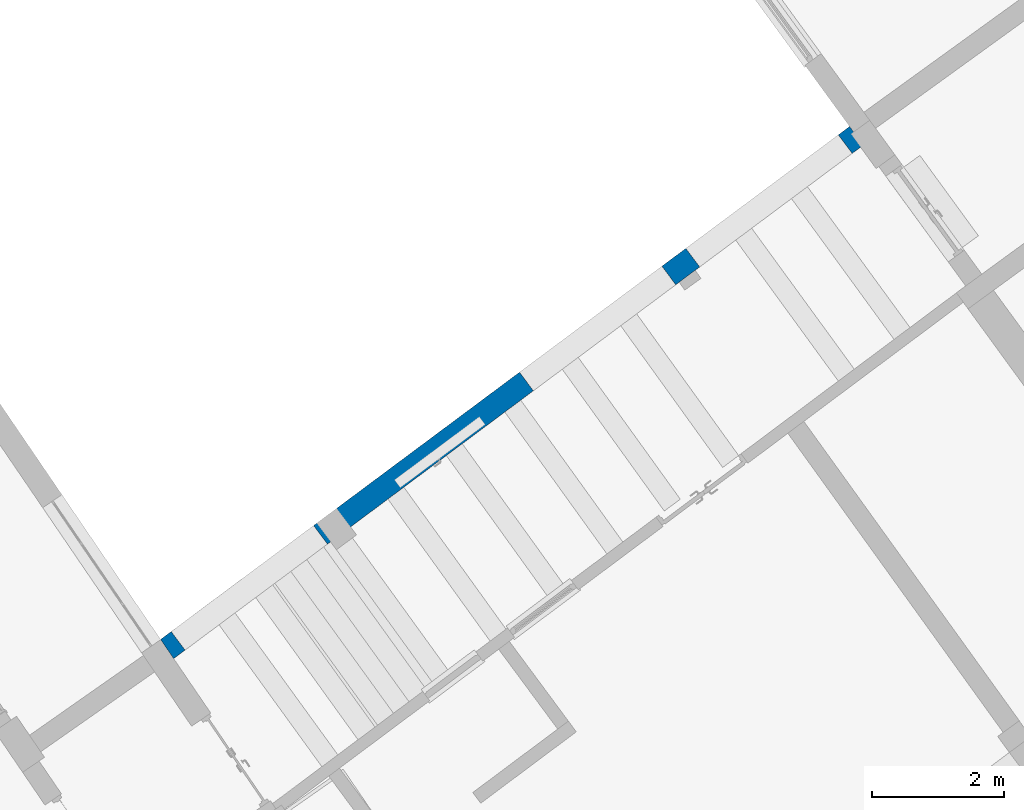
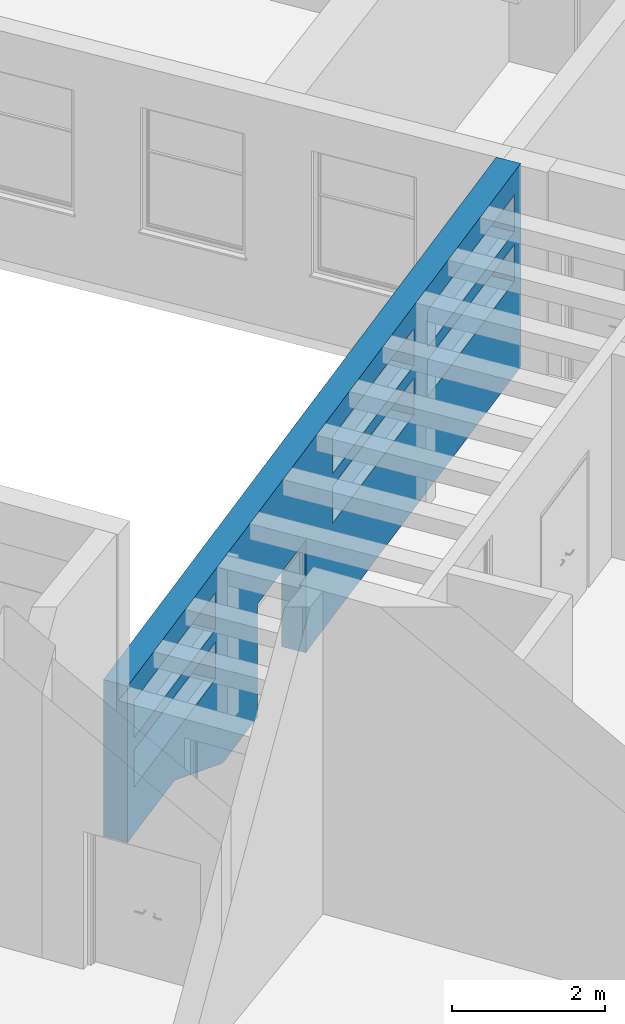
# One storey, part 139 of 157: 1 wall, 7 openings.
"""IFC2X3 building model written with IfcOpenShell, lengths in millimetres."""

import ifcopenshell
import ifcopenshell.guid

model = None  # the IFC model being written
_history = None  # IfcOwnerHistory: only IFC2X3 demands one
_inside = {}  # id of a spatial element -> (the spatial element, [elements in it])
_under = {}  # id of a project, library or spatial element -> (it, [spatial elements below it])
_declared = {}  # id of a project -> (the project, [libraries it declares])
_typed = {}  # id of a type object -> (the type object, [elements of that type])
_made_of = {}  # id of a material, layer set ... -> (it, [elements and type objects made of it])


def new_model(schema):
    """Start an empty IFC model of exactly this schema.

    Asked for "IFC4X3", IfcOpenShell would pick the latest addendum, in which some entities
    have other attributes; the version numbers below select the first issue.
    IFC2X3 requires an IfcOwnerHistory on every rooted entity: one is made here for all.
    """
    global model, _history
    if schema == "IFC4X3":
        model = ifcopenshell.file(schema_version=(4, 3, 0, 0))
    else:
        model = ifcopenshell.file(schema=schema)
    _inside.clear()
    _under.clear()
    _declared.clear()
    _typed.clear()
    _made_of.clear()
    _history = None
    if model.schema == "IFC2X3":
        org = make("IfcOrganization", Name="unknown")
        user = make(
            "IfcPersonAndOrganization",
            ThePerson=make("IfcPerson", FamilyName="unknown"),
            TheOrganization=org,
        )
        app = make(
            "IfcApplication",
            ApplicationDeveloper=org,
            Version="unknown",
            ApplicationFullName="unknown",
            ApplicationIdentifier="unknown",
        )
        _history = make(
            "IfcOwnerHistory",
            OwningUser=user,
            OwningApplication=app,
            ChangeAction="ADDED",
            CreationDate=0,
        )
    return model


def make(cls, **values):
    """One entity of the class cls with the attributes given. An attribute that is None is left unset."""
    return model.create_entity(
        cls, **{name: value for name, value in values.items() if value is not None}
    )


def entity(cls, *values):
    """Any entity or typed value of the class cls, its attributes in the order of the schema. None: left unset."""
    e = model.create_entity(cls)
    for i, value in enumerate(values):
        if value is not None:
            e[i] = value
    return e


def rooted(cls, **values):
    """An entity with a GlobalId (a new one), such as an element, a storey or a relation."""
    return make(cls, GlobalId=ifcopenshell.guid.new(), OwnerHistory=_history, **values)


def si_unit(unit_type, name, prefix=None):
    """IfcSIUnit, for example si_unit("LENGTHUNIT", "METRE", prefix="MILLI")."""
    return make("IfcSIUnit", UnitType=unit_type, Prefix=prefix, Name=name)


def converted_unit(unit_type, name, factor, base, dimensions=None, offset=None):
    """IfcConversionBasedUnit, such as the inch: factor (a typed value) times the base unit."""
    return make(
        "IfcConversionBasedUnit"
        if offset is None
        else "IfcConversionBasedUnitWithOffset",
        ConversionOffset=offset,
        Dimensions=None
        if dimensions is None
        else entity("IfcDimensionalExponents", *dimensions),
        UnitType=unit_type,
        Name=name,
        ConversionFactor=make(
            "IfcMeasureWithUnit", ValueComponent=factor, UnitComponent=base
        ),
    )


def derived_unit(unit_type, elements):
    """IfcDerivedUnit: a product of units, each with its exponent."""
    return make(
        "IfcDerivedUnit",
        Elements=[
            make("IfcDerivedUnitElement", Unit=unit, Exponent=power)
            for unit, power in elements
        ],
        UnitType=unit_type,
    )


def assignment(units):
    """IfcUnitAssignment: the units of a project."""
    return None if units is None else make("IfcUnitAssignment", Units=units)


def point(xyz):
    """IfcCartesianPoint."""
    return None if xyz is None else make("IfcCartesianPoint", Coordinates=xyz)


def direction(xyz):
    """IfcDirection."""
    return None if xyz is None else make("IfcDirection", DirectionRatios=xyz)


def frame(location, z_axis=None, x_axis=None):
    """IfcAxis2Placement3D, a coordinate frame: its origin and axes. An axis left out is left unset."""
    return make(
        "IfcAxis2Placement3D",
        Location=point(location),
        Axis=direction(z_axis),
        RefDirection=direction(x_axis),
    )


def frame_2d(location, x_axis=None):
    """IfcAxis2Placement2D, a coordinate frame in the plane: its origin and x axis."""
    return make(
        "IfcAxis2Placement2D", Location=point(location), RefDirection=direction(x_axis)
    )


def origin():
    """The frame at (0, 0, 0) with its axes left unset."""
    return frame((0.0, 0.0, 0.0))


def place(relative_to, where):
    """IfcLocalPlacement: puts the frame where relative to a parent placement (None: the world)."""
    return make(
        "IfcLocalPlacement", PlacementRelTo=relative_to, RelativePlacement=where
    )


def context(
    kind, dimensions, precision=None, world=None, true_north=None, identifier=None
):
    """IfcGeometricRepresentationContext, for example the 3D "Model" context."""
    return make(
        "IfcGeometricRepresentationContext",
        ContextIdentifier=identifier,
        ContextType=kind,
        CoordinateSpaceDimension=dimensions,
        Precision=precision,
        WorldCoordinateSystem=world,
        TrueNorth=true_north,
    )


def subcontext(parent, identifier, kind, view, scale=None):
    """IfcGeometricRepresentationSubContext, for example "Body" below "Model"."""
    return make(
        "IfcGeometricRepresentationSubContext",
        ContextIdentifier=identifier,
        ContextType=kind,
        ParentContext=parent,
        TargetScale=scale,
        TargetView=view,
    )


def project(units=None, contexts=None):
    """IfcProject with its units and contexts."""
    return rooted(
        "IfcProject",
        Name="project",
        RepresentationContexts=contexts,
        UnitsInContext=assignment(units),
    )


def spatial(cls, under=None, at=None, **own):
    """A site, building, storey or space (cls), placed at a placement, below another one or the project."""
    s = rooted(cls, ObjectPlacement=at, **own)
    if under is not None:
        _under.setdefault(under.id(), (under, []))[1].append(s)
    return s


def profile(cls, at=None, kind="AREA", **sizes):
    """A parametric profile (cls). Its sizes go by their IFC names, for example OverallWidth=200.0."""
    return make(cls, ProfileType=kind, Position=at, **sizes)


def rectangle(**sizes):
    """IfcRectangleProfileDef."""
    return profile("IfcRectangleProfileDef", **sizes)


def extrude(swept, where, along, depth):
    """IfcExtrudedAreaSolid: the profile swept, set in the frame where, extruded along a direction by depth."""
    return make(
        "IfcExtrudedAreaSolid",
        SweptArea=swept,
        Position=where,
        ExtrudedDirection=direction(along),
        Depth=depth,
    )


def faces_of(points, faces, orient=None, outer=None):
    """IfcFace entities. A face is a list of loops; a loop is a list of indices into points, from 0.

    orient and outer hold one flag for each loop. By default every Orientation is true, the
    first loop of a face is its IfcFaceOuterBound and the others are IfcFaceBound.
    """
    made = []
    for i, loops in enumerate(faces):
        bounds = []
        for j, loop in enumerate(loops):
            is_outer = j == 0 if outer is None else outer[i][j]
            bounds.append(
                make(
                    "IfcFaceOuterBound" if is_outer else "IfcFaceBound",
                    Bound=make("IfcPolyLoop", Polygon=[points[k] for k in loop]),
                    Orientation=True if orient is None else orient[i][j],
                )
            )
        made.append(make("IfcFace", Bounds=bounds))
    return made


def faceted_brep(points, faces, orient=None, outer=None, voids=None):
    """IfcFacetedBrep: a solid bounded by flat faces; with voids (closed shells), ...WithVoids."""
    shared = [point(p) for p in points]
    hull = make("IfcClosedShell", CfsFaces=faces_of(shared, faces, orient, outer))
    if voids is None:
        return make("IfcFacetedBrep", Outer=hull)
    return make(
        "IfcFacetedBrepWithVoids",
        Outer=hull,
        Voids=[
            make(cls, CfsFaces=faces_of(shared, fs, o, b)) for cls, fs, o, b in voids
        ],
    )


def shape(context_of_items, identifier, shape_type, items):
    """IfcShapeRepresentation: the items that make up one representation, for example the "Body"."""
    return make(
        "IfcShapeRepresentation",
        ContextOfItems=context_of_items,
        RepresentationIdentifier=identifier,
        RepresentationType=shape_type,
        Items=items,
    )


def material(Name=None, Category=None):
    """IfcMaterial."""
    return make("IfcMaterial", Name=Name, Category=Category)


def layer(
    of_material, thickness, ventilated=None, Name=None, Category=None, Priority=None
):
    """IfcMaterialLayer: one layer of a wall or slab, of a material (None: an air gap)."""
    return make(
        "IfcMaterialLayer",
        Material=of_material,
        LayerThickness=thickness,
        IsVentilated=ventilated,
        Name=Name,
        Category=Category,
        Priority=Priority,
    )


def layer_set(layers, Name=None):
    """IfcMaterialLayerSet."""
    return make("IfcMaterialLayerSet", MaterialLayers=layers, LayerSetName=Name)


def made_of(thing, what):
    """Note that an element or type object is made of a material, layer set ...; save() writes the relation."""
    if what is not None:
        _made_of.setdefault(what.id(), (what, []))[1].append(thing)
    return thing


def type_object(cls, material=None, **own):
    """A type object (cls), such as IfcWallType, which elements share."""
    return made_of(rooted(cls, **own), material)


def element(
    cls,
    number,
    at=None,
    inside=None,
    cuts=None,
    type_object=None,
    material=None,
    context=None,
    identifier="Body",
    shape_type=None,
    held_by="IfcProductDefinitionShape",
    body=None,
    shapes=None,
    **own,
):
    """One element of the class cls, such as IfcWall. Its Tag is "e" and its number.

    at: its placement. inside: the storey or other place that contains it. cuts: it is an
    opening in that element (IfcRelVoidsElement). A single representation is given by context,
    identifier, shape_type and body (its items); several are given by shapes. held_by: the class
    of the entity that holds the representations. save() writes the other relations.
    """
    e = rooted(cls, Tag="e%d" % number, ObjectPlacement=at, **own)
    if body is not None:
        shapes = [shape(context, identifier, shape_type, body)]
    if shapes is not None:
        e.Representation = make(held_by, Representations=shapes)
    if inside is not None:
        _inside.setdefault(inside.id(), (inside, []))[1].append(e)
    if cuts is not None:
        rooted(
            "IfcRelVoidsElement", RelatingBuildingElement=cuts, RelatedOpeningElement=e
        )
    if type_object is not None:
        _typed.setdefault(type_object.id(), (type_object, []))[1].append(e)
    return made_of(e, material)


def aggregate(whole, parts):
    """IfcRelAggregates: a whole, such as a stair, and the parts it consists of."""
    return rooted("IfcRelAggregates", RelatingObject=whole, RelatedObjects=parts)


def save(model, path):
    """Write the relations noted so far, then the file.

    IfcRelAggregates (storeys below a building ...), IfcRelContainedInSpatialStructure (elements
    in a storey), IfcRelDefinesByType, IfcRelAssociatesMaterial and IfcRelDeclares: one each for
    every whole, place, type object, material and project.
    """
    for whole, parts in _under.values():
        aggregate(whole, parts)
    for where, things in _inside.values():
        rooted(
            "IfcRelContainedInSpatialStructure",
            RelatedElements=things,
            RelatingStructure=where,
        )
    for kind, things in _typed.values():
        rooted("IfcRelDefinesByType", RelatedObjects=things, RelatingType=kind)
    for what, things in _made_of.values():
        rooted("IfcRelAssociatesMaterial", RelatedObjects=things, RelatingMaterial=what)
    for by, libraries in _declared.values():
        rooted("IfcRelDeclares", RelatingContext=by, RelatedDefinitions=libraries)
    model.write(path)


model = new_model("IFC2X3")

# Units and contexts
model_context = context("Model", 3, precision=0.01, world=origin(), true_north=direction((6.123031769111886e-17, 1.0)))
body_context = subcontext(model_context, "Body", "Model", "MODEL_VIEW")
ifc_project = project(units=[si_unit("LENGTHUNIT", "METRE", prefix="MILLI"), si_unit("AREAUNIT", "SQUARE_METRE"), si_unit("VOLUMEUNIT", "CUBIC_METRE"), converted_unit("PLANEANGLEUNIT", "DEGREE", entity("IfcRatioMeasure", 0.017453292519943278), si_unit("PLANEANGLEUNIT", "RADIAN"), dimensions=[0, 0, 0, 0, 0, 0, 0]), si_unit("MASSUNIT", "GRAM", prefix="KILO"), derived_unit("MASSDENSITYUNIT", [(si_unit("MASSUNIT", "GRAM", prefix="KILO"), 1), (si_unit("LENGTHUNIT", "METRE"), -3)]), derived_unit("MOMENTOFINERTIAUNIT", [(si_unit("LENGTHUNIT", "METRE"), 4)]), si_unit("TIMEUNIT", "SECOND"), si_unit("FREQUENCYUNIT", "HERTZ"), si_unit("THERMODYNAMICTEMPERATUREUNIT", "DEGREE_CELSIUS"), derived_unit("THERMALTRANSMITTANCEUNIT", [(si_unit("MASSUNIT", "GRAM", prefix="KILO"), 1), (si_unit("THERMODYNAMICTEMPERATUREUNIT", "KELVIN"), -1), (si_unit("TIMEUNIT", "SECOND"), -3)]), derived_unit("THERMALCONDUCTANCEUNIT", [(si_unit("MASSUNIT", "GRAM", prefix="KILO"), 1), (si_unit("LENGTHUNIT", "METRE"), 1), (si_unit("THERMODYNAMICTEMPERATUREUNIT", "KELVIN"), -1), (si_unit("TIMEUNIT", "SECOND"), -3)]), derived_unit("VOLUMETRICFLOWRATEUNIT", [(si_unit("LENGTHUNIT", "METRE"), 3), (si_unit("TIMEUNIT", "SECOND"), -1)]), derived_unit("MASSFLOWRATEUNIT", [(si_unit("MASSUNIT", "GRAM", prefix="KILO"), 1), (si_unit("TIMEUNIT", "SECOND"), -1)]), derived_unit("ROTATIONALFREQUENCYUNIT", [(si_unit("TIMEUNIT", "SECOND"), -1)]), si_unit("ELECTRICCURRENTUNIT", "AMPERE"), si_unit("ELECTRICVOLTAGEUNIT", "VOLT"), si_unit("POWERUNIT", "WATT"), converted_unit("FORCEUNIT", "KIP", entity("IfcRatioMeasure", 2.088543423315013e-05), si_unit("FORCEUNIT", "NEWTON"), dimensions=[1, 1, -2, 0, 0, 0, 0]), si_unit("ILLUMINANCEUNIT", "LUX"), si_unit("LUMINOUSFLUXUNIT", "LUMEN"), si_unit("LUMINOUSINTENSITYUNIT", "CANDELA"), derived_unit("USERDEFINED", [(si_unit("MASSUNIT", "GRAM", prefix="KILO"), -1), (si_unit("LENGTHUNIT", "METRE"), -2), (si_unit("TIMEUNIT", "SECOND"), 3), (si_unit("LUMINOUSFLUXUNIT", "LUMEN"), 1)]), derived_unit("USERDEFINED", [(si_unit("MASSUNIT", "GRAM", prefix="KILO"), 1), (si_unit("LENGTHUNIT", "METRE"), 3), (si_unit("TIMEUNIT", "SECOND"), -3), (si_unit("ELECTRICCURRENTUNIT", "AMPERE"), -2)]), derived_unit("USERDEFINED", [(si_unit("LENGTHUNIT", "METRE"), 2), (si_unit("TIMEUNIT", "SECOND"), -2)]), derived_unit("SOUNDPOWERUNIT", [(si_unit("MASSUNIT", "GRAM", prefix="KILO"), 1), (si_unit("LENGTHUNIT", "METRE"), 2), (si_unit("TIMEUNIT", "SECOND"), -3)]), derived_unit("SOUNDPRESSUREUNIT", [(si_unit("MASSUNIT", "GRAM", prefix="KILO"), 1), (si_unit("LENGTHUNIT", "METRE"), -1), (si_unit("TIMEUNIT", "SECOND"), -2)]), derived_unit("LINEARVELOCITYUNIT", [(si_unit("LENGTHUNIT", "METRE"), 1), (si_unit("TIMEUNIT", "SECOND"), -1)]), si_unit("PRESSUREUNIT", "PASCAL"), derived_unit("USERDEFINED", [(si_unit("LENGTHUNIT", "METRE"), -2), (si_unit("MASSUNIT", "GRAM", prefix="KILO"), 1), (si_unit("TIMEUNIT", "SECOND"), -2)]), derived_unit("LINEARFORCEUNIT", [(si_unit("MASSUNIT", "GRAM", prefix="KILO"), 1), (si_unit("LENGTHUNIT", "METRE"), 1), (si_unit("TIMEUNIT", "SECOND"), -2), (si_unit("LENGTHUNIT", "METRE"), -1)]), derived_unit("PLANARFORCEUNIT", [(si_unit("MASSUNIT", "GRAM", prefix="KILO"), 1), (si_unit("LENGTHUNIT", "METRE"), 1), (si_unit("TIMEUNIT", "SECOND"), -2), (si_unit("LENGTHUNIT", "METRE"), -2)]), derived_unit("SPECIFICHEATCAPACITYUNIT", [(si_unit("LENGTHUNIT", "METRE"), 2), (si_unit("TIMEUNIT", "SECOND"), -2), (si_unit("THERMODYNAMICTEMPERATUREUNIT", "KELVIN"), -1)]), derived_unit("VAPORPERMEABILITYUNIT", [(si_unit("TIMEUNIT", "SECOND"), 1), (si_unit("LENGTHUNIT", "METRE"), -1)]), derived_unit("DYNAMICVISCOSITYUNIT", [(si_unit("MASSUNIT", "GRAM", prefix="KILO"), 1), (si_unit("LENGTHUNIT", "METRE"), -1), (si_unit("TIMEUNIT", "SECOND"), -1)]), derived_unit("THERMALEXPANSIONCOEFFICIENTUNIT", [(si_unit("THERMODYNAMICTEMPERATUREUNIT", "KELVIN"), -1)])], contexts=[model_context])

# Site, building, storey
site_placement = place(None, frame((0.0, 0.0, 0.0), z_axis=(0.0, 0.0, 1.0), x_axis=(0.8191520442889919, 0.5735764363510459, 0.0)))
site = spatial("IfcSite", under=ifc_project, at=site_placement, Name="Default", CompositionType="ELEMENT")
building_placement = place(site_placement, origin())
building = spatial("IfcBuilding", under=site, at=building_placement, CompositionType="ELEMENT")
storey_placement = place(building_placement, origin())
storey = spatial("IfcBuildingStorey", under=building, at=storey_placement, Name="1.EG +0.00", CompositionType="ELEMENT", Elevation=-4.331468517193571e-12)

# Wall, openings
ifc_material = material(Name="Analytical Wall Surface_CJC")
ifc_layer = layer(ifc_material, 350.0)
ifc_layer_set = layer_set([ifc_layer], Name="Basic Wall:Wand_Innen_35")
wall_type = type_object("IfcWallType", Name="Basic Wall:Wand_Innen_35", PredefinedType="STANDARD", material=ifc_layer_set)
wall_placement = place(storey_placement, frame((-204101.05348576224, 166996.005670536, -750.0), z_axis=(0.0, 0.0, 1.0), x_axis=(0.9995749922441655, 0.029151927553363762, 0.0)))
wall = element("IfcWall", 1, at=wall_placement, inside=storey, type_object=wall_type, Name="Basic Wall:Wand_Innen_35", ObjectType="Basic Wall:Wand_Innen_35", context=body_context, shape_type="Brep", body=[
    faceted_brep([(12984.138347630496, -175.0, 0.0), (12984.138347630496, -175.0, 3250.0), (11930.363742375, -175.0, 3250.0), (11630.346839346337, -175.0, 3250.0), (10880.30458177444, -175.0, 3250.0), (10580.287678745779, -175.0, 3250.0), (9815.893972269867, -175.0, 3250.0), (9515.854710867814, -175.0, 3250.0), (8715.750013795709, -175.0, 3250.0), (8415.710752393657, -175.0, 3250.0), (7615.606055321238, -175.0, 3250.0), (7315.566793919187, -175.0, 3250.0), (6533.797199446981, -175.0, 3250.0), (6233.757938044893, -175.0, 3250.0), (5433.653240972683, -175.0, 3250.0), (5133.613979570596, -175.0, 3250.0), (4333.509282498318, -175.0, 3250.0), (4033.4700210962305, -175.0, 3250.0), (3255.528447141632, -175.0, 3250.0), (2955.5004618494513, -175.0, 3250.0), (2205.5288961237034, -175.0, 3250.0), (1905.500757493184, -175.0, 3250.0), (1155.3068251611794, -175.0, 3250.0), (855.2816970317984, -175.0, 3250.0), (0.0, -175.0, 3250.0), (0.0, -175.0, 750.0), (1550.1638463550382, -175.0, 750.0), (3145.5153249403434, -175.0, 0.0), (4284.138347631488, -175.0, 0.0), (4284.138347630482, -175.0, 1800.0), (5884.138347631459, -175.0, 1800.0), (5884.138347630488, -175.0, 0.0), (9515.854710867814, -175.0, 0.0), (9815.893972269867, -175.0, 0.0), (2895.1186250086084, -175.0, 2090.0), (2895.1186250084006, -175.0, 1500.0), (215.11862500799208, -175.0, 1500.0), (215.11862500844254, -175.0, 2090.0), (9451.157462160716, -175.0, 2090.0), (9451.157462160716, -175.0, 1500.0), (6771.157462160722, -175.0, 1500.0), (6771.157462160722, -175.0, 2090.0), (12771.942690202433, -175.0, 2090.0), (12771.942690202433, -175.0, 1500.0), (9901.942690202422, -175.0, 1500.0), (9901.942690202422, -175.0, 2090.0), (12771.942690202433, -175.0, 2880.0), (12771.942690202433, -175.0, 2290.0), (9901.942690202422, -175.0, 2290.0), (9901.942690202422, -175.0, 2880.0), (9451.157462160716, -175.0, 2880.0), (9451.157462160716, -175.0, 2290.0), (6771.157462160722, -175.0, 2290.0), (6771.157462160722, -175.0, 2880.0), (2895.1186250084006, -175.0, 2880.0), (2895.1186250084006, -175.0, 2290.0), (215.1186250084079, -175.0, 2290.0), (215.1186250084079, -175.0, 2880.0), (12984.138347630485, 175.0, 3250.0), (12984.138347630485, 175.0, 0.0), (5884.138347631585, 175.0, 0.0), (5884.138347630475, 175.0, 1800.0), (4284.138347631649, 175.0, 1800.0), (4284.13834763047, 175.0, 0.0), (3145.515324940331, 175.0, 0.0), (1550.1638463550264, 175.0, 750.0), (14.668675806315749, 175.0, 750.0), (14.668675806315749, 175.0, 3250.0), (2895.118625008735, 175.0, 1500.0), (2895.118625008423, 175.0, 2090.0), (215.11862500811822, 175.0, 2090.0), (215.1186250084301, 175.0, 1500.0), (9451.157462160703, 175.0, 1500.0), (9451.157462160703, 175.0, 2090.0), (6771.15746216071, 175.0, 2090.0), (6771.15746216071, 175.0, 1500.0), (12771.942690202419, 175.0, 1500.0), (12771.942690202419, 175.0, 2090.0), (9901.94269020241, 175.0, 2090.0), (9901.94269020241, 175.0, 1500.0), (12771.942690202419, 175.0, 2290.0), (12771.942690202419, 175.0, 2880.0), (9901.94269020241, 175.0, 2880.0), (9901.94269020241, 175.0, 2290.0), (9451.157462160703, 175.0, 2290.0), (9451.157462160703, 175.0, 2880.0), (6771.15746216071, 175.0, 2880.0), (6771.15746216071, 175.0, 2290.0), (2895.1186250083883, 175.0, 2290.0), (2895.1186250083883, 175.0, 2880.0), (215.11862500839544, 175.0, 2880.0), (215.11862500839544, 175.0, 2290.0)], [[[0, 1, 2, 3, 4, 5, 6, 7, 8, 9, 10, 11, 12, 13, 14, 15, 16, 17, 18, 19, 20, 21, 22, 23, 24, 25, 26, 27, 28, 29, 30, 31, 32, 33], [34, 35, 36, 37], [38, 39, 40, 41], [42, 43, 44, 45], [46, 47, 48, 49], [50, 51, 52, 53], [54, 55, 56, 57]], [[58, 59, 60, 61, 62, 63, 64, 65, 66, 67], [68, 69, 70, 71], [72, 73, 74, 75], [76, 77, 78, 79], [80, 81, 82, 83], [84, 85, 86, 87], [88, 89, 90, 91]], [[25, 24, 67, 66]], [[27, 64, 63, 28]], [[1, 0, 59, 58]], [[24, 23, 22, 21, 20, 19, 18, 17, 16, 15, 14, 13, 12, 11, 10, 9, 8, 7, 6, 5, 4, 3, 2, 1, 58, 67]], [[26, 25, 66, 65]], [[27, 26, 65, 64]], [[62, 29, 28, 63]], [[29, 62, 61, 30]], [[30, 61, 60, 31]], [[68, 35, 34, 69]], [[69, 34, 37, 70]], [[70, 37, 36, 71]], [[35, 68, 71, 36]], [[73, 72, 39, 38]], [[74, 73, 38, 41]], [[75, 74, 41, 40]], [[72, 75, 40, 39]], [[77, 76, 43, 42]], [[78, 77, 42, 45]], [[79, 78, 45, 44]], [[76, 79, 44, 43]], [[81, 80, 47, 46]], [[82, 81, 46, 49]], [[83, 82, 49, 48]], [[80, 83, 48, 47]], [[85, 84, 51, 50]], [[86, 85, 50, 53]], [[87, 86, 53, 52]], [[84, 87, 52, 51]], [[89, 88, 55, 54]], [[90, 89, 54, 57]], [[91, 90, 57, 56]], [[88, 91, 56, 55]], [[59, 0, 33, 32, 31, 60]]]),
])
opening_1_placement = place(wall_placement, frame((5884.138347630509, 175.0, -400.0)))
element("IfcOpeningElement", 2, at=opening_1_placement, cuts=wall, Name="M_Door-Passage-Double-Flush:150x210:1", ObjectType="Opening", context=body_context, shape_type="SweptSolid", body=[
    extrude(rectangle(XDim=2200.0, YDim=1599.999999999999, at=frame_2d((1100.0, 799.9999999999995), x_axis=(1.0, 0.0))), frame((0.0, 0.0, 0.0), z_axis=(0.0, -1.0, 0.0), x_axis=(0.0, 0.0, 1.0)), (0.0, 0.0, 1.0), 350.0),
])
opening_2_placement = place(wall_placement, frame((2895.1186250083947, 175.0, 1500.0)))
element("IfcOpeningElement", 3, at=opening_2_placement, cuts=wall, Name="WINDOW_Glass_Block:WINDOW_Glass_Block_14x3:1", ObjectType="Opening", context=body_context, shape_type="SweptSolid", body=[
    extrude(rectangle(XDim=589.9999999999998, YDim=2679.999999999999, at=frame_2d((294.99999999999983, 1339.9999999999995), x_axis=(1.0, 0.0))), frame((0.0, 0.0, 0.0), z_axis=(0.0, -1.0, 0.0), x_axis=(0.0, 0.0, 1.0)), (0.0, 0.0, 1.0), 350.0),
])
opening_3_placement = place(wall_placement, frame((9451.157462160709, 175.0, 1500.0)))
element("IfcOpeningElement", 4, at=opening_3_placement, cuts=wall, Name="WINDOW_Glass_Block:WINDOW_Glass_Block_14x3:1", ObjectType="Opening", context=body_context, shape_type="SweptSolid", body=[
    extrude(rectangle(XDim=589.9999999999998, YDim=2679.999999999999, at=frame_2d((294.99999999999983, 1339.9999999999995), x_axis=(1.0, 0.0))), frame((0.0, 0.0, 0.0), z_axis=(0.0, -1.0, 0.0), x_axis=(0.0, 0.0, 1.0)), (0.0, 0.0, 1.0), 350.0),
])
opening_4_placement = place(wall_placement, frame((12771.942690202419, 175.0, 1500.0)))
element("IfcOpeningElement", 5, at=opening_4_placement, cuts=wall, Name="WINDOW_Glass_Block:WINDOW_Glass_Block_15x3:1", ObjectType="Opening", context=body_context, shape_type="SweptSolid", body=[
    extrude(rectangle(XDim=589.9999999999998, YDim=2869.9999999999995, at=frame_2d((294.99999999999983, 1435.0000000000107), x_axis=(1.0, 0.0))), frame((0.0, 0.0, 0.0), z_axis=(0.0, -1.0, 0.0), x_axis=(0.0, 0.0, 1.0)), (0.0, 0.0, 1.0), 350.0),
])
opening_5_placement = place(wall_placement, frame((2895.1186250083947, 175.0, 2290.0)))
element("IfcOpeningElement", 6, at=opening_5_placement, cuts=wall, Name="WINDOW_Glass_Block:WINDOW_Glass_Block_14x3:1", ObjectType="Opening", context=body_context, shape_type="SweptSolid", body=[
    extrude(rectangle(XDim=589.9999999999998, YDim=2679.999999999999, at=frame_2d((294.99999999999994, 1339.9999999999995), x_axis=(1.0, 0.0))), frame((0.0, 0.0, 0.0), z_axis=(0.0, -1.0, 0.0), x_axis=(0.0, 0.0, 1.0)), (0.0, 0.0, 1.0), 350.0),
])
opening_6_placement = place(wall_placement, frame((9451.157462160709, 175.0, 2290.0)))
element("IfcOpeningElement", 7, at=opening_6_placement, cuts=wall, Name="WINDOW_Glass_Block:WINDOW_Glass_Block_14x3:1", ObjectType="Opening", context=body_context, shape_type="SweptSolid", body=[
    extrude(rectangle(XDim=589.9999999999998, YDim=2679.999999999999, at=frame_2d((294.99999999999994, 1339.9999999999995), x_axis=(1.0, 0.0))), frame((0.0, 0.0, 0.0), z_axis=(0.0, -1.0, 0.0), x_axis=(0.0, 0.0, 1.0)), (0.0, 0.0, 1.0), 350.0),
])
opening_7_placement = place(wall_placement, frame((12771.942690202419, 175.0, 2290.0)))
element("IfcOpeningElement", 8, at=opening_7_placement, cuts=wall, Name="WINDOW_Glass_Block:WINDOW_Glass_Block_15x3:1", ObjectType="Opening", context=body_context, shape_type="SweptSolid", body=[
    extrude(rectangle(XDim=589.9999999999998, YDim=2869.9999999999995, at=frame_2d((294.99999999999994, 1435.0000000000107), x_axis=(1.0, 0.0))), frame((0.0, 0.0, 0.0), z_axis=(0.0, -1.0, 0.0), x_axis=(0.0, 0.0, 1.0)), (0.0, 0.0, 1.0), 350.0),
])

save(model, "model.ifc")
